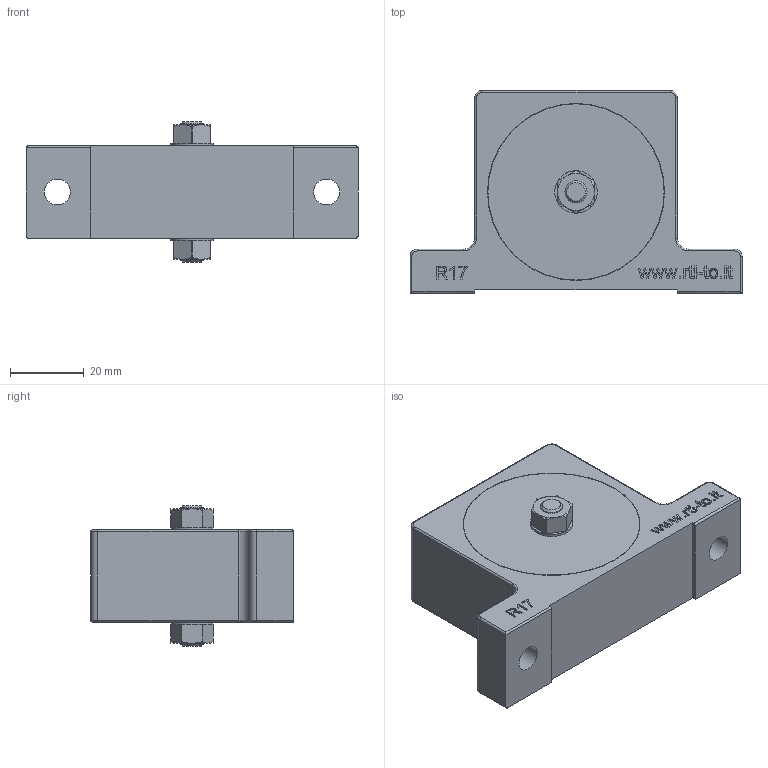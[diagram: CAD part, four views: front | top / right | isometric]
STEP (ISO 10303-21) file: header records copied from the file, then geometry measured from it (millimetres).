
FILE_DESCRIPTION((''),'2;1');
FILE_NAME('D:\UFFICIO TECNICO\PROGETTI PER PROTOTIPI\VIBRATORE - R17\VIBR. R 17.stp','2015-09-04T18:24:35',('Piero'),(''),'Autodesk Inventor 2011','Autodesk Inventor 2011','');
FILE_SCHEMA(('CONFIG_CONTROL_DESIGN'));
Length unit declared in the file: millimetre
Products named in the file (1): R 17
Bounding box: 90 x 55 x 38 mm (x, y, z)
Volume: 83643 mm3; surface area: 16945 mm2
Topology: 1 solids, 1 shells, 325 faces, 848 edges, 553 vertices
Faces by surface type: plane 208, cylinder 47, bspline 42, cone 16, torus 12
Full cylindrical faces by diameter (mm): 6 x2, 7 x2, 8.566 x2, 11.5 x2, 47.8 x2, 48 x2
Entity records: 9968 total; most frequent: CARTESIAN_POINT 2300, ORIENTED_EDGE 1644, DIRECTION 1406, EDGE_CURVE 822, VECTOR 586, LINE 586, VERTEX_POINT 543, AXIS2_PLACEMENT_3D 410
